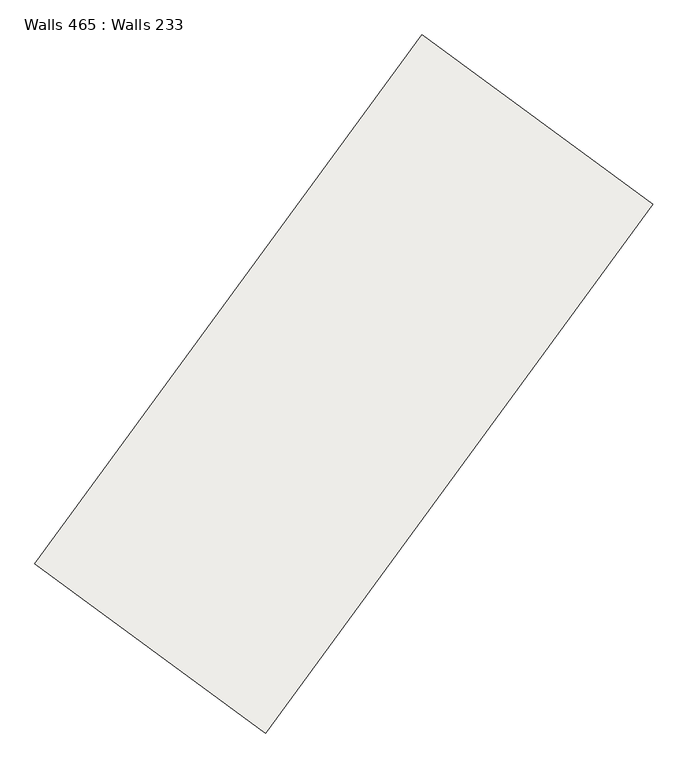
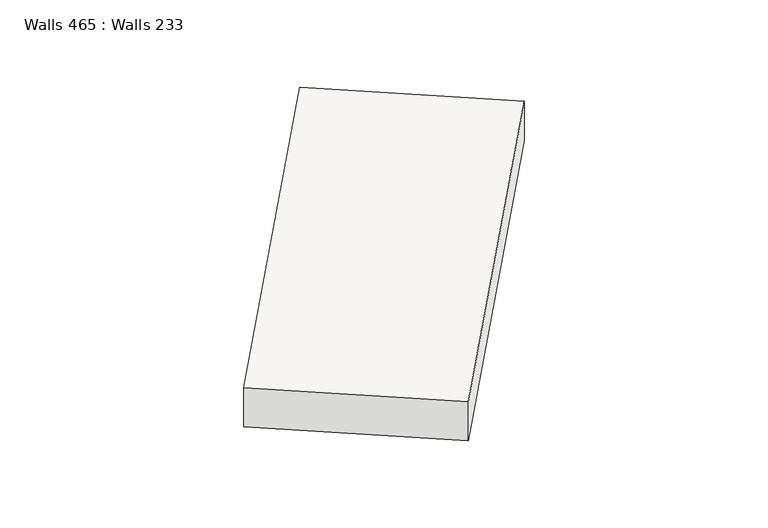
"""IFC4 building model written with IfcOpenShell, lengths in millimetres: slab geometry, Walls 465 : Walls 233."""

from ifc_helpers import new_model, si_unit, frame, origin, place, context, project, spatial, polyline, outline, extrude, source, transform, mapped, element, save


def walls_465_walls_233_188b1bd3(model_context):
    return source(origin(), model_context, "Body", "SweptSolid", [
        extrude(outline(polyline([(-400.0, 0.0), (400.0, 0.0), (287.8, -8700.0000008), (-512.2, -8700.0000008), (-400.0, 0.0)])), frame((450037.0170611, 332572.1921797, 646435.8), z_axis=(-0.8067016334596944, 0.5909589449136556, 0.0), x_axis=(0.0, 0.0, 1.0)), (0.0, 0.0, 1.0), 3800.0),
    ])


if __name__ == "__main__":
    model = new_model("IFC4")
    model_context = context("Model", 3, world=origin())
    ifc_project = project(units=[si_unit("LENGTHUNIT", "METRE", prefix="MILLI")], contexts=[model_context])
    site = spatial("IfcSite", under=ifc_project)
    building = spatial("IfcBuilding", under=site)
    placement = place(None, origin())
    walls_465_walls_233_shape = walls_465_walls_233_188b1bd3(model_context)
    element("IfcSlab", 1, ObjectType="Walls 465 : Walls 233", at=placement, inside=building, context=model_context, shape_type="MappedRepresentation", body=[
        mapped(walls_465_walls_233_shape, transform((0.0, 0.0, 0.0), x_axis=(1.0, 0.0, 0.0), y_axis=(0.0, 1.0, 0.0), z_axis=(0.0, 0.0, 1.0))),
    ])
    save(model, "model.ifc")
